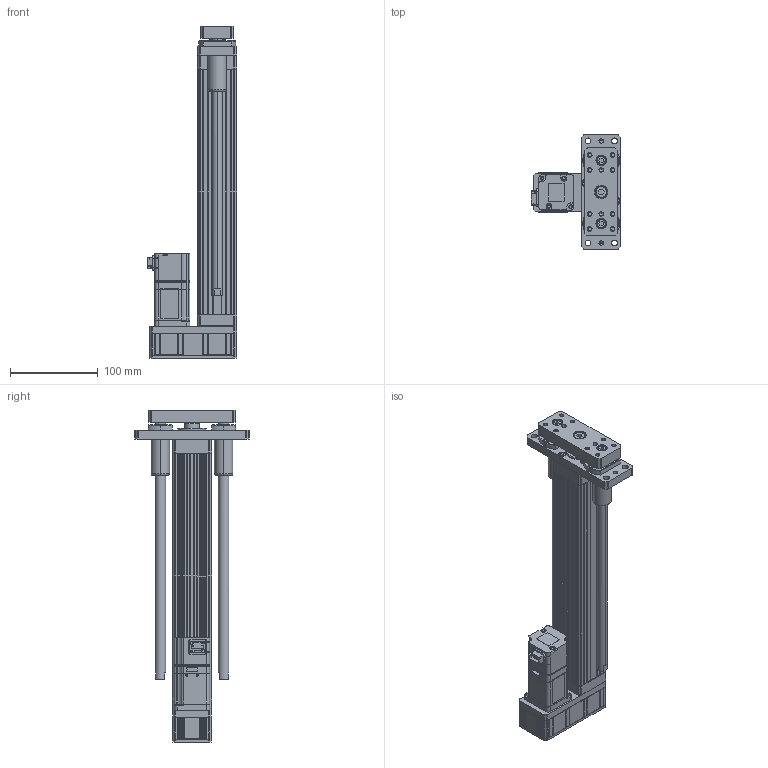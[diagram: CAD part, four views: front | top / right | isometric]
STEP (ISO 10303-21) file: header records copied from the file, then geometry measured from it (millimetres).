
FILE_DESCRIPTION (( 'STEP AP203' ), '1' );
FILE_NAME ('ANS045-GP200-05(10)-W10.STEP', '2019-02-14T03:12:06', ( 'user' ), ( '' ), 'SwSTEP 2.0', 'SolidWorks 2013', '' );
FILE_SCHEMA (( 'CONFIG_CONTROL_DESIGN' ));
Length unit declared in the file: millimetre
Products named in the file (4): ANS045 GP200 VER2; ANS045 ROD ST200 G; SGMJV_01A_A21; ANS045-GP200-05(10)-W10
Assembly tree (3 placements, depth 2):
  ANS045-GP200-05(10)-W10
    ANS045 GP200 VER2
    ANS045 ROD ST200 G
    SGMJV_01A_A21
Bounding box: 102.3 x 130 x 377.5 mm (x, y, z)
Volume: 800545.3 mm3; surface area: 257847.1 mm2
Topology: 3 solids, 23 shells, 1437 faces, 3610 edges, 2284 vertices
Faces by surface type: plane 766, cylinder 471, cone 194, torus 4, bspline 2
Entity records: 42978 total; most frequent: CARTESIAN_POINT 8067, DIRECTION 7202, ORIENTED_EDGE 7172, EDGE_CURVE 3586, AXIS2_PLACEMENT_3D 2403, VECTOR 2396, LINE 2396, VERTEX_POINT 2284
